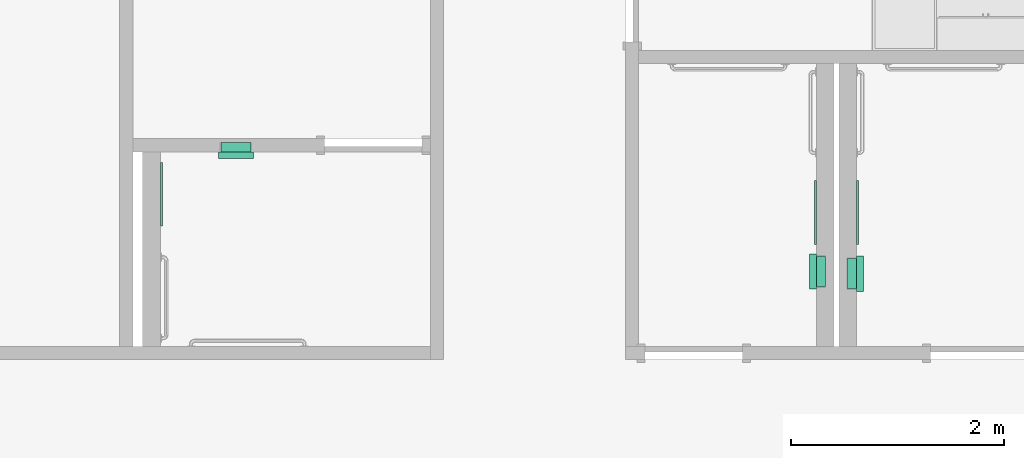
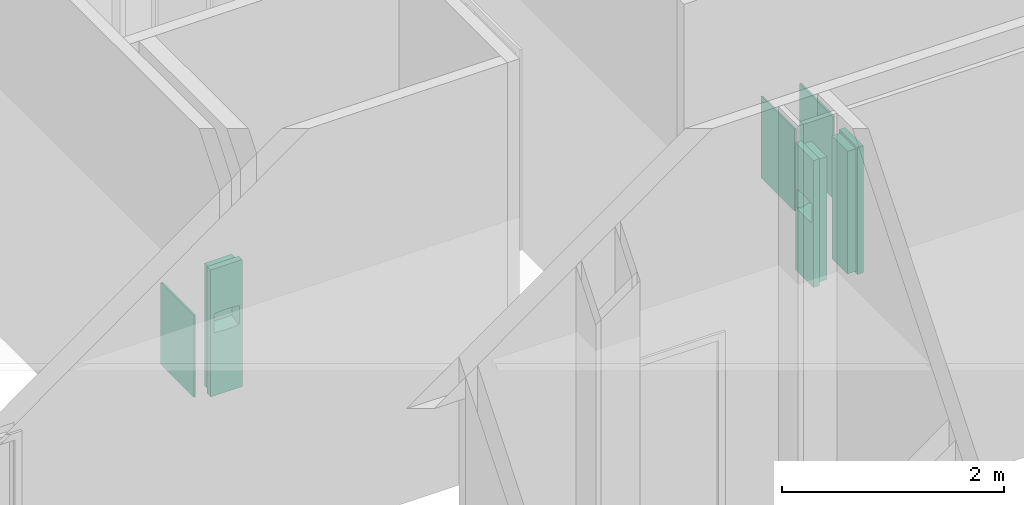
# One storey, part 55 of 82: 6 flow terminals.
"""IFC2X3 building model written with IfcOpenShell, lengths in metres."""

from ifc_helpers import new_model, entity, si_unit, converted_unit, frame, origin, origin_2d_with_axis, place, context, project, spatial, rectangle, extrude, face_set, surface_model, source, transform, mapped, type_object, type_shapes, element, save


model = new_model("IFC2X3")

# Units and contexts
model_context = context("Model", 3, precision=1e-09, world=origin())
plan_context = context("Plan", 3, precision=1e-09, world=origin())
ifc_project = project(units=[si_unit("LENGTHUNIT", "METRE"), si_unit("AREAUNIT", "SQUARE_METRE"), si_unit("VOLUMEUNIT", "CUBIC_METRE"), converted_unit("PLANEANGLEUNIT", "DEGREE", entity("IfcRatioMeasure", 0.01745329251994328), si_unit("PLANEANGLEUNIT", "RADIAN"), dimensions=[0, 0, 0, 0, 0, 0, 0]), si_unit("TIMEUNIT", "SECOND")], contexts=[model_context, plan_context])

# Site, building, storey, space
site_placement = place(None, origin())
site = spatial("IfcSite", under=ifc_project, at=site_placement, Name="Default", CompositionType="ELEMENT")
building_placement = place(site_placement, origin())
building = spatial("IfcBuilding", under=site, at=building_placement, CompositionType="ELEMENT")
storey_placement = place(building_placement, origin())
storey = spatial("IfcBuildingStorey", under=building, at=storey_placement, Name="First Floor", CompositionType="ELEMENT", Elevation=-3.531500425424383e-13)
space_1_placement = place(storey_placement, origin())
space_1 = spatial("IfcSpace", under=storey, at=space_1_placement, Name="1E12", CompositionType="ELEMENT", InteriorOrExteriorSpace="INTERNAL")

# Flow terminal
sanitary_terminal_type_1 = type_object("IfcSanitaryTerminalType", Name="Semi-Recessed", PredefinedType="NOTDEFINED")
shared_shape_1 = source(origin(), model_context, "Body", "SurfaceModel", [
    surface_model("IfcFaceBasedSurfaceModel", [(0.3047999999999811, 1.371600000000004, 0.006350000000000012), (0.02539999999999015, 1.371600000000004, 0.006350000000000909), (0.02539999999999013, 0.02540000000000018, 0.006350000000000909), (0.3047999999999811, 0.02540000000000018, 0.006350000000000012), (0.3047999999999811, 1.371600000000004, 0.0), (0.02539999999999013, 1.371600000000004, 0.0), (0.02539999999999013, 0.02540000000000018, 0.0), (0.3047999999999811, 0.02540000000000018, 0.0), (0.3047999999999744, 0.8683625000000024, 0.0314087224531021), (0.304799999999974, 0.8683625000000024, 0.0), (0.304799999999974, 1.371600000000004, 0.0), (0.3047999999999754, 1.371600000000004, 0.1396999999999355), (0.3047999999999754, 0.9274310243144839, 0.139699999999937), (0.3047999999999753, 0.9028355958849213, 0.1191121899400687), (0.304799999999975, 0.8840898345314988, 0.09308548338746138), (0.3047999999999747, 0.8723562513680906, 0.06323391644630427), (0.02539999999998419, 0.8683625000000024, 0.03140872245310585), (0.02539999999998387, 0.8683625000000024, 0.0), (0.02539999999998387, 1.371600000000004, 0.0), (0.02539999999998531, 1.371600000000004, 0.1396999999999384), (0.02539999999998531, 0.9274310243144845, 0.1396999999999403), (0.02539999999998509, 0.9028355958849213, 0.1191121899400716), (0.02539999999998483, 0.8840898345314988, 0.09308548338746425), (0.02539999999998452, 0.8723562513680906, 0.06323391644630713), (0.1650999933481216, 0.8971245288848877, 0.1125374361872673), (0.244423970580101, 0.8850007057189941, 0.0947267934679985), (0.3048000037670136, 0.8934627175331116, 0.1060988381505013), (0.225727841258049, 0.8897196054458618, 0.1024402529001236), (0.1240624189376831, 0.8936511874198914, 0.1080563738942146), (0.1443802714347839, 0.89626145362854, 0.1114614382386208), (0.02539999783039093, 0.8934627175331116, 0.1060988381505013), (0.2975995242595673, 0.8728225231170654, 0.06500939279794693), (0.2961554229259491, 0.8724397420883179, 0.06352298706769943), (0.08576729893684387, 0.8849983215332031, 0.09472260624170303), (0.05923719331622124, 0.8781034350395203, 0.0805450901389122), (0.06810294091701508, 0.8800443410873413, 0.08500713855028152), (0.02539999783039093, 0.8811564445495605, 0.08562259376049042), (0.03954862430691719, 0.8766331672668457, 0.07681932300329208), (0.04958875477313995, 0.8769928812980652, 0.07776296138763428), (0.02539999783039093, 0.8782230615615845, 0.07815969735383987), (0.03264534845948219, 0.875198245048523, 0.07281118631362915), (0.02539999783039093, 0.8767563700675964, 0.0744282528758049), (0.02539999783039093, 0.87602299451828, 0.07256253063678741), (0.2946777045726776, 0.8762261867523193, 0.07572414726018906), (0.3048000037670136, 0.8767563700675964, 0.0744282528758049), (0.3048000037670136, 0.8774896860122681, 0.07629397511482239), (0.2906513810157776, 0.8717893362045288, 0.0609215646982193), (0.3048000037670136, 0.871357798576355, 0.05527761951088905), (0.3048000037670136, 0.8718570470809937, 0.05925576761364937), (0.02539999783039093, 0.874556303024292, 0.06883108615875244), (0.03170676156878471, 0.8735430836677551, 0.0675705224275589), (0.03171554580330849, 0.8739543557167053, 0.06892137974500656), (0.104461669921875, 0.889717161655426, 0.1024366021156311), (0.02539999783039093, 0.8752896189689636, 0.07069680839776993), (0.03172433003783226, 0.8743656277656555, 0.07027223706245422), (0.03218483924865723, 0.8747819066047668, 0.07154171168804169), (0.185808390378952, 0.8962624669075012, 0.1114626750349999), (0.3048000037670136, 0.8703593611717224, 0.04732131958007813), (0.2280749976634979, 0.8709259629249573, 0.05697767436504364), (0.2061262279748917, 0.8936530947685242, 0.1080589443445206), (0.3048000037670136, 0.8752896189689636, 0.07069680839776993), (0.297547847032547, 0.8752022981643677, 0.07282306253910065), (0.2980738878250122, 0.8745774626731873, 0.0708826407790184), (0.2985999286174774, 0.8739525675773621, 0.06894221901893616), (0.3048000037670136, 0.874556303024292, 0.06883108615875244), (0.2709419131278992, 0.8781068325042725, 0.08055329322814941), (0.3048000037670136, 0.8811564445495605, 0.08562259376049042), (0.2620970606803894, 0.8800443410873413, 0.08500713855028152), (0.2805894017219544, 0.8769944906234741, 0.07776710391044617), (0.3048000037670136, 0.8782230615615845, 0.07815969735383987), (0.03435983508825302, 0.8722586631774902, 0.06284872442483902), (0.02539999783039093, 0.872106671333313, 0.06124484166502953), (0.0367727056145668, 0.8719081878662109, 0.06142202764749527), (0.2906513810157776, 0.8766331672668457, 0.07681932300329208), (0.02539999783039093, 0.8718570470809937, 0.05925576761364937), (0.3048000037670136, 0.8738229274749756, 0.06696536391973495), (0.2980997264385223, 0.8733875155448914, 0.06697580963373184), (0.3048000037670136, 0.872106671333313, 0.06124484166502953), (0.2947112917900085, 0.8720570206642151, 0.06203658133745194), (0.02539999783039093, 0.8738229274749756, 0.06696536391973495), (0.3048000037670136, 0.873089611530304, 0.06509964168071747), (0.02539999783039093, 0.8774896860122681, 0.07629397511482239), (0.03438528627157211, 0.8759323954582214, 0.07491400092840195), (0.03677724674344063, 0.8764464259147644, 0.07632055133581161), (0.03261014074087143, 0.8728178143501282, 0.0649920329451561), (0.02539999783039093, 0.8703593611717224, 0.04732131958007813), (0.1650999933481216, 0.8683624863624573, 0.03140872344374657), (0.03954862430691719, 0.8717893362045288, 0.0609215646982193), (0.1021250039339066, 0.8709259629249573, 0.05697767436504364), (0.02539999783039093, 0.871357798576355, 0.05527761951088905), (0.02539999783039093, 0.873089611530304, 0.06509964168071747), (0.2961127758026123, 0.8757142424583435, 0.07427360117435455), (0.3048000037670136, 0.87602299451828, 0.07256253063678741), (0.1650999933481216, 0.8701865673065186, 0.05300865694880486), (0.03954862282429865, 0.9617593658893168, 0.06092156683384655), (0.1650999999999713, 0.9617593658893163, 0.05300865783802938), (0.2906513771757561, 0.9617593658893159, 0.06092156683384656), (0.2927086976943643, 0.9617593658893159, 0.06119241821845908), (0.2946258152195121, 0.9617593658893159, 0.06198651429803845), (0.2962720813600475, 0.9617593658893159, 0.06324973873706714), (0.2975353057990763, 0.9617593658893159, 0.06489600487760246), (0.2983294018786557, 0.9617593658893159, 0.06681312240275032), (0.2986002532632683, 0.9617593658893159, 0.06887044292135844), (0.2983294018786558, 0.9617593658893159, 0.07092776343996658), (0.2975353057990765, 0.9617593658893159, 0.0728448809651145), (0.2962720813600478, 0.9617593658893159, 0.07449114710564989), (0.2946258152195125, 0.9617593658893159, 0.07575437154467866), (0.2927086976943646, 0.9617593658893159, 0.07654846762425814), (0.2906513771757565, 0.9617593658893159, 0.07681931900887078), (0.2806776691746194, 0.9617593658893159, 0.07775040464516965), (0.2710486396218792, 0.9617593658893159, 0.0805114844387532), (0.2620970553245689, 0.9617593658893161, 0.0850071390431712), (0.2316919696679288, 0.9617593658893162, 0.1002429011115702), (0.1989754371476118, 0.9617593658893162, 0.1095287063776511), (0.1651000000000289, 0.9617593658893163, 0.1125374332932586), (0.1312245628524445, 0.9617593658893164, 0.109528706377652), (0.09850803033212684, 0.9617593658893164, 0.1002429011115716), (0.06810294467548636, 0.9617593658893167, 0.08500713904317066), (0.05915136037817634, 0.9617593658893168, 0.08051148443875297), (0.04952233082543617, 0.9617593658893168, 0.07775040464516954), (0.03954862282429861, 0.9617593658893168, 0.07681931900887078), (0.03749130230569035, 0.9617593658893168, 0.0765484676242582), (0.03557418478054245, 0.9617593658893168, 0.07575437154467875), (0.03392791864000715, 0.9617593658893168, 0.07449114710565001), (0.03266469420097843, 0.9617593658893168, 0.07284488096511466), (0.03187059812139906, 0.9617593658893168, 0.07092776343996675), (0.03159974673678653, 0.9617593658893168, 0.06887044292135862), (0.03187059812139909, 0.9617593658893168, 0.06681312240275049), (0.03266469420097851, 0.9617593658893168, 0.0648960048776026), (0.03392791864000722, 0.9617593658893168, 0.06324973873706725), (0.03557418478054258, 0.9617593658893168, 0.06198651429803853), (0.03749130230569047, 0.9617593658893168, 0.06119241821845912), (0.3302000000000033, 1.397000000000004, 0.1523999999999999), (0.0, 1.397000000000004, 0.152400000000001), (0.0, 0.0, 0.152400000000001), (0.3302000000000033, 0.0, 0.1523999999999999), (0.03175000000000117, 0.7016793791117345, 0.1524000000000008), (0.03175000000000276, 0.8960819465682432, 0.1524000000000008), (0.03192255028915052, 0.8975521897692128, 0.1524000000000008), (0.03243082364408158, 0.8989425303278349, 0.1524000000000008), (0.03324719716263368, 0.9001774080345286, 0.1524000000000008), (0.03432730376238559, 0.9011897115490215, 0.1524000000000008), (0.03561244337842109, 0.9019244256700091, 0.1524000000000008), (0.03703277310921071, 0.9023416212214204, 0.1524000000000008), (0.1222300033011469, 0.9119737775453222, 0.1524000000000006), (0.2079699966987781, 0.911973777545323, 0.1524000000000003), (0.2931672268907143, 0.902341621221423, 0.1524), (0.2945875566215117, 0.9019244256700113, 0.1524), (0.2958726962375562, 0.9011897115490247, 0.1524), (0.2969528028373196, 0.9001774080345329, 0.1524), (0.297769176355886, 0.8989425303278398, 0.1524), (0.2982774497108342, 0.8975521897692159, 0.1524), (0.2984500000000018, 0.8960819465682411, 0.1524), (0.2984500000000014, 0.7016793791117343, 0.1524), (0.2982774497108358, 0.7002091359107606, 0.1524), (0.2977691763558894, 0.6988187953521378, 0.1524), (0.2969528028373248, 0.697583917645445, 0.1524), (0.2958726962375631, 0.6965716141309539, 0.1524), (0.29458755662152, 0.6958369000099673, 0.1524), (0.2931672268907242, 0.6954197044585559, 0.1524), (0.2079699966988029, 0.6857875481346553, 0.1524000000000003), (0.1222300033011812, 0.6857875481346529, 0.1524000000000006), (0.03703277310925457, 0.6954197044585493, 0.1524000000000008), (0.03561244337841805, 0.6958369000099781, 0.1524000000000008), (0.0343273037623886, 0.6965716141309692, 0.1524000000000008), (0.03324719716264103, 0.6975839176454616, 0.1524000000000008), (0.03243082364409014, 0.698818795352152, 0.1524000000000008), (0.03192255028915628, 0.7002091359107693, 0.1524000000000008), (0.3063874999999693, 1.373187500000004, 0.0), (0.02381249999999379, 1.373187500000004, 0.0), (0.02381249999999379, 0.02381250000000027, 0.0), (0.3063874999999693, 0.02381250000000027, 0.0), (0.3047999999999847, 1.371600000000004, 0.0), (0.3047999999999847, 0.02540000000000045, 0.0), (0.02539999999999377, 0.02540000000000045, 0.0), (0.02539999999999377, 1.371600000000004, 0.0), (0.304799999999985, 1.371600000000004, 0.08889999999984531), (0.3047999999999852, 1.371600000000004, 0.1396999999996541), (0.3047999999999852, 0.02540000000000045, 0.1396999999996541), (0.304799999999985, 0.02540000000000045, 0.08889999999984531), (0.02539999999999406, 0.02540000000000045, 0.08889999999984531), (0.02539999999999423, 0.02540000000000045, 0.139699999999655), (0.02539999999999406, 1.371600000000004, 0.08889999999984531), (0.02539999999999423, 1.371600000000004, 0.139699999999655), (0.02381249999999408, 1.373187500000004, 0.08889999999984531), (0.3063874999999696, 1.373187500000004, 0.08889999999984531), (0.02381249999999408, 0.02381250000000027, 0.08889999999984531), (0.3063874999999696, 0.02381250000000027, 0.08889999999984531), (0.3302000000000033, 1.397000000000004, 0.08889999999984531), (0.0, 1.397000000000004, 0.08889999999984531), (0.0, 0.0, 0.08889999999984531), (0.3302000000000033, 0.0, 0.08889999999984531), (0.3302000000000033, 1.397000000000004, 0.1396999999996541), (0.0, 1.397000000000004, 0.1396999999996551), (0.0, 0.0, 0.1396999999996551), (0.3302000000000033, 0.0, 0.1396999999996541), (0.0317500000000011, 0.7016793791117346, 0.139699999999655), (0.03175000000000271, 0.8960819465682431, 0.139699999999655), (0.03192255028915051, 0.8975521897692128, 0.139699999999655), (0.03243082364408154, 0.8989425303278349, 0.139699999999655), (0.03324719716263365, 0.9001774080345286, 0.139699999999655), (0.03432730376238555, 0.9011897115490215, 0.139699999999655), (0.03561244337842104, 0.9019244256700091, 0.139699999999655), (0.03703277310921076, 0.9023416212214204, 0.139699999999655), (0.1222300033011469, 0.9119737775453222, 0.1396999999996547), (0.207969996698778, 0.911973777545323, 0.1396999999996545), (0.2931672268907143, 0.902341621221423, 0.1396999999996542), (0.2945875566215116, 0.9019244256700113, 0.1396999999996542), (0.2958726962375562, 0.9011897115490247, 0.1396999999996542), (0.2969528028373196, 0.9001774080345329, 0.1396999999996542), (0.2977691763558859, 0.8989425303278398, 0.1396999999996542), (0.2982774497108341, 0.8975521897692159, 0.1396999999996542), (0.2984500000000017, 0.8960819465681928, 0.1396999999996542), (0.2984500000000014, 0.7016793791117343, 0.1396999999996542), (0.2982774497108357, 0.7002091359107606, 0.1396999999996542), (0.2977691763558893, 0.6988187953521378, 0.1396999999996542), (0.2969528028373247, 0.697583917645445, 0.1396999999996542), (0.295872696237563, 0.6965716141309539, 0.1396999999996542), (0.29458755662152, 0.6958369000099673, 0.1396999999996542), (0.2931672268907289, 0.6954197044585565, 0.1396999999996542), (0.2079699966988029, 0.6857875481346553, 0.1396999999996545), (0.1222300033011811, 0.6857875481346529, 0.1396999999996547), (0.0370327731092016, 0.6954197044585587, 0.139699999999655), (0.03561244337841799, 0.6958369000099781, 0.139699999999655), (0.03432730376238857, 0.6965716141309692, 0.139699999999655), (0.03324719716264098, 0.6975839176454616, 0.139699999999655), (0.03243082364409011, 0.698818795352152, 0.139699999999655), (0.03192255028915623, 0.7002091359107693, 0.139699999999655), (0.02698749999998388, 0.6774923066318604, 0.1206361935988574), (0.02698749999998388, 0.6858000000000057, 0.1206361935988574), (0.02698749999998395, 0.6858000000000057, 0.1397000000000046), (0.02698749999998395, 0.0253999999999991, 0.1397000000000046), (0.02698749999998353, 0.0253999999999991, 0.007937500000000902), (0.02698749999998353, 0.7076898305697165, 0.007937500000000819), (0.3032124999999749, 0.6774923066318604, 0.1206361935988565), (0.3032124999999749, 0.6858000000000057, 0.1206361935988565), (0.3032124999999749, 0.6858000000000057, 0.1397000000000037), (0.3032124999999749, 0.0253999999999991, 0.1397000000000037), (0.3032124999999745, 0.0253999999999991, 0.007937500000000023), (0.3032124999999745, 0.7076898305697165, 0.007937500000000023)], [face_set([[[0, 1, 2, 3]], [[4, 5, 6, 7]], [[1, 0, 4, 5]], [[2, 6, 5, 1]], [[3, 7, 6, 2]], [[0, 3, 7, 4]]]), face_set([[[8, 9, 10, 11, 12, 13, 14, 15]], [[16, 17, 18, 19, 20, 21, 22, 23]], [[9, 8, 16, 17]], [[10, 18, 17, 9]], [[11, 19, 18, 10]], [[12, 11, 19, 20]], [[24, 20, 21]], [[25, 26, 27]], [[28, 29, 21]], [[28, 21, 30]], [[15, 31, 32]], [[22, 33, 30]], [[24, 21, 29]], [[34, 35, 36]], [[37, 38, 39]], [[40, 41, 42]], [[39, 38, 34]], [[22, 35, 33]], [[39, 34, 36]], [[43, 44, 45]], [[46, 47, 48]], [[49, 50, 51]], [[33, 52, 30]], [[53, 54, 55]], [[24, 56, 13]], [[57, 47, 58]], [[24, 13, 12]], [[13, 56, 59]], [[59, 27, 26]], [[60, 61, 62]], [[62, 63, 64]], [[24, 12, 20]], [[55, 42, 53]], [[65, 66, 67]], [[25, 67, 14]], [[25, 14, 26]], [[65, 68, 69]], [[66, 65, 69]], [[70, 71, 72]], [[69, 68, 73]], [[72, 71, 74]], [[26, 13, 59]], [[54, 53, 49]], [[64, 60, 62]], [[75, 63, 76]], [[46, 77, 78]], [[79, 50, 49]], [[80, 76, 31]], [[39, 81, 37]], [[41, 82, 81]], [[49, 51, 54]], [[81, 82, 83]], [[40, 82, 41]], [[70, 84, 23]], [[84, 50, 79]], [[85, 16, 86]], [[28, 30, 52]], [[70, 23, 71]], [[87, 72, 74]], [[85, 88, 89]], [[87, 89, 88]], [[74, 89, 87]], [[84, 90, 23]], [[58, 47, 46]], [[35, 22, 36]], [[63, 75, 64]], [[91, 61, 92]], [[45, 73, 43]], [[80, 75, 76]], [[61, 60, 92]], [[15, 32, 78]], [[45, 69, 73]], [[92, 44, 91]], [[66, 14, 67]], [[84, 79, 90]], [[85, 93, 88]], [[86, 57, 93]], [[31, 15, 80]], [[77, 15, 78]], [[42, 55, 40]], [[58, 93, 57]], [[77, 46, 48]], [[8, 57, 86]], [[37, 81, 83]], [[44, 43, 91]], [[85, 86, 93]], [[94, 95, 96, 97, 98, 99, 100, 101, 102, 103, 104, 105, 106, 107, 108, 109, 110, 111, 112, 113, 114, 115, 116, 117, 118, 119, 120, 121, 122, 123, 124, 125, 126, 127, 128, 129, 130, 131]], [[95, 94, 87, 88, 93]], [[96, 95, 93, 58, 46]], [[46, 96, 97]], [[78, 98, 99]], [[97, 98, 78]], [[99, 100, 31]], [[46, 97, 78]], [[63, 31, 101]], [[31, 78, 99]], [[63, 101, 102]], [[101, 31, 100]], [[61, 104, 105]], [[43, 106, 107]], [[105, 106, 43]], [[73, 107, 108]], [[63, 103, 61]], [[103, 63, 102]], [[61, 103, 104]], [[61, 105, 43]], [[107, 73, 43]], [[108, 68, 73]], [[68, 108, 109]], [[109, 65, 68]], [[110, 67, 65]], [[67, 110, 111]], [[109, 110, 65]], [[111, 112, 25]], [[25, 67, 111]], [[27, 25, 112]], [[112, 59, 27]], [[113, 114, 56]], [[56, 59, 113]], [[24, 56, 114]], [[113, 59, 112]], [[114, 115, 29]], [[29, 24, 114]], [[28, 29, 115]], [[115, 116, 28]], [[116, 117, 33]], [[33, 52, 116]], [[35, 33, 117]], [[116, 52, 28]], [[118, 34, 35]], [[35, 117, 118]], [[118, 119, 34]], [[120, 37, 38]], [[38, 119, 120]], [[34, 119, 38]], [[37, 120, 121]], [[82, 122, 123]], [[121, 122, 83]], [[123, 124, 40]], [[37, 121, 83]], [[83, 122, 82]], [[40, 125, 54]], [[40, 82, 123]], [[54, 125, 126]], [[40, 124, 125]], [[84, 127, 128]], [[129, 84, 128]], [[72, 130, 131]], [[129, 130, 70]], [[87, 131, 94]], [[127, 50, 126]], [[127, 84, 50]], [[126, 50, 54]], [[70, 84, 129]], [[130, 72, 70]], [[131, 87, 72]]]), face_set([[[132, 133, 134, 135], [136, 137, 138, 139, 140, 141, 142, 143, 144, 145, 146, 147, 148, 149, 150, 151, 152, 153, 154, 155, 156, 157, 158, 159, 160, 161, 162, 163, 164, 165, 166, 167]], [[168, 169, 170, 171], [172, 173, 174, 175]], [[172, 176, 177, 178, 179, 173]], [[173, 174, 180, 181, 178, 179]], [[174, 175, 182, 183, 181, 180]], [[175, 182, 183, 177, 176, 172]], [[168, 169, 184, 185]], [[169, 184, 186, 170]], [[170, 186, 187, 171]], [[171, 168, 185, 187]], [[188, 189, 190, 191], [185, 187, 186, 184]], [[133, 132, 192, 188, 189, 193]], [[134, 133, 193, 189, 190, 194]], [[135, 134, 194, 190, 191, 195]], [[132, 135, 195, 191, 188, 192]], [[177, 183, 181, 178], [196, 197, 198, 199, 200, 201, 202, 203, 204, 205, 206, 207, 208, 209, 210, 211, 212, 213, 214, 215, 216, 217, 218, 219, 220, 221, 222, 223, 224, 225, 226, 227]], [[137, 136, 196, 197]], [[198, 197, 137, 138]], [[199, 198, 138, 139]], [[139, 140, 200, 199]], [[202, 201, 141, 142]], [[203, 202, 142, 143]], [[140, 141, 201, 200]], [[203, 143, 144, 204]], [[145, 205, 204, 144]], [[205, 145, 146, 206]], [[207, 206, 146, 147]], [[208, 207, 147, 148]], [[148, 149, 209, 208]], [[212, 211, 151, 152]], [[211, 210, 150, 151]], [[149, 150, 210, 209]], [[153, 213, 212, 152]], [[214, 213, 153, 154]], [[215, 214, 154, 155]], [[155, 156, 216, 215]], [[218, 217, 157, 158]], [[219, 218, 158, 159]], [[156, 157, 217, 216]], [[219, 159, 160, 220]], [[161, 221, 220, 160]], [[221, 161, 162, 222]], [[223, 222, 162, 163]], [[224, 223, 163, 164]], [[164, 165, 225, 224]], [[227, 226, 166, 167]], [[196, 227, 167, 136]], [[165, 166, 226, 225]]]), face_set([[[228, 229, 230, 231, 232, 233]], [[234, 235, 236, 237, 238, 239]], [[233, 228, 234, 239]], [[232, 238, 239, 233]], [[231, 237, 238, 232]], [[230, 231, 237, 236]], [[229, 230, 236, 235]], [[228, 234, 235, 229]]])]),
])
type_shapes(sanitary_terminal_type_1, [shared_shape_1])
flow_terminal_1_placement = place(space_1_placement, frame((-42.55020000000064, 14.02489999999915, 0.3428999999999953), z_axis=(0.0, -1.0, 0.0), x_axis=(1.0, 0.0, 0.0)))
element("IfcFlowTerminal", 1, at=flow_terminal_1_placement, inside=space_1, type_object=sanitary_terminal_type_1, Name="M_Towel Dispensers - receptical:Semi-Recessed:Semi-Recessed", ObjectType="Semi-Recessed", context=model_context, shape_type="MappedRepresentation", body=[
    mapped(shared_shape_1, transform((0.0, 0.0, 0.0), scale=1.0)),
])

# Space
space_2_placement = place(storey_placement, origin())
space_2 = spatial("IfcSpace", under=storey, at=space_2_placement, Name="1E09", CompositionType="ELEMENT", InteriorOrExteriorSpace="INTERNAL")

# Flow terminal
flow_terminal_2_placement = place(space_2_placement, frame((-36.63390000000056, 12.62399999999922, 0.3428999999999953), z_axis=(1.0, 0.0, 0.0), x_axis=(0.0, 1.0, 0.0)))
element("IfcFlowTerminal", 2, at=flow_terminal_2_placement, inside=space_2, type_object=sanitary_terminal_type_1, Name="M_Towel Dispensers - receptical:Semi-Recessed:Semi-Recessed", ObjectType="Semi-Recessed", context=model_context, shape_type="MappedRepresentation", body=[
    mapped(shared_shape_1, transform((0.0, 0.0, 0.0), scale=1.0)),
])

# Space
space_3_placement = place(storey_placement, origin())
space_3 = spatial("IfcSpace", under=storey, at=space_3_placement, Name="1E10", CompositionType="ELEMENT", InteriorOrExteriorSpace="INTERNAL")

# Flow terminals
flow_terminal_3_placement = place(space_3_placement, frame((-36.83610000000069, 12.9741999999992, 0.3428999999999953), z_axis=(-1.0, 0.0, 0.0), x_axis=(0.0, -1.0, 0.0)))
element("IfcFlowTerminal", 3, at=flow_terminal_3_placement, inside=space_3, type_object=sanitary_terminal_type_1, Name="M_Towel Dispensers - receptical:Semi-Recessed:Semi-Recessed", ObjectType="Semi-Recessed", context=model_context, shape_type="MappedRepresentation", body=[
    mapped(shared_shape_1, transform((0.0, 0.0, 0.0), scale=1.0)),
])
sanitary_terminal_type_2 = type_object("IfcSanitaryTerminalType", Name="Mirror 600mm x 900mm", PredefinedType="NOTDEFINED")
shared_shape_2 = source(origin(), model_context, "Body", "SweptSolid", [
    extrude(rectangle(XDim=0.01905, YDim=0.5999999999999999, at=origin_2d_with_axis()), frame((0.02447030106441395, 0.093525, 1.0), z_axis=(0.0, 0.0, 1.0), x_axis=(0.0, -1.0, 0.0)), (0.0, 0.0, 1.0), 0.8999999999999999),
])
type_shapes(sanitary_terminal_type_2, [shared_shape_2])
flow_terminal_4_placement = place(space_2_placement, frame((-36.62900000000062, 13.38847030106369, -0.08500000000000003), z_axis=(0.0, 0.0, 1.0), x_axis=(0.0, -1.0, 0.0)))
element("IfcFlowTerminal", 4, at=flow_terminal_4_placement, inside=space_2, type_object=sanitary_terminal_type_2, Name="M_Mirror:Mirror 600mm x 900mm:Mirror 600mm x 900mm", ObjectType="Mirror 600mm x 900mm", context=model_context, shape_type="MappedRepresentation", body=[
    mapped(shared_shape_2, transform((0.0, 0.0, 0.0), scale=1.0)),
])
flow_terminal_5_placement = place(space_1_placement, frame((-43.1770000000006, 13.56047030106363, -0.08500000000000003), z_axis=(0.0, 0.0, 1.0), x_axis=(0.0, -1.0, 0.0)))
element("IfcFlowTerminal", 5, at=flow_terminal_5_placement, inside=space_1, type_object=sanitary_terminal_type_2, Name="M_Mirror:Mirror 600mm x 900mm:Mirror 600mm x 900mm", ObjectType="Mirror 600mm x 900mm", context=model_context, shape_type="MappedRepresentation", body=[
    mapped(shared_shape_2, transform((0.0, 0.0, 0.0), scale=1.0)),
])
flow_terminal_6_placement = place(space_3_placement, frame((-36.84100000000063, 13.33952969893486, -0.08500000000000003), z_axis=(0.0, 0.0, 1.0), x_axis=(0.0, 1.0, 0.0)))
element("IfcFlowTerminal", 6, at=flow_terminal_6_placement, inside=space_3, type_object=sanitary_terminal_type_2, Name="M_Mirror:Mirror 600mm x 900mm:Mirror 600mm x 900mm", ObjectType="Mirror 600mm x 900mm", context=model_context, shape_type="MappedRepresentation", body=[
    mapped(shared_shape_2, transform((0.0, 0.0, 0.0), scale=1.0)),
])

save(model, "model.ifc")
